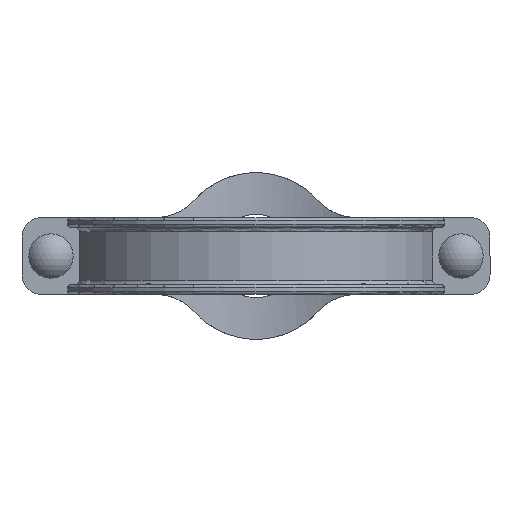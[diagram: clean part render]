
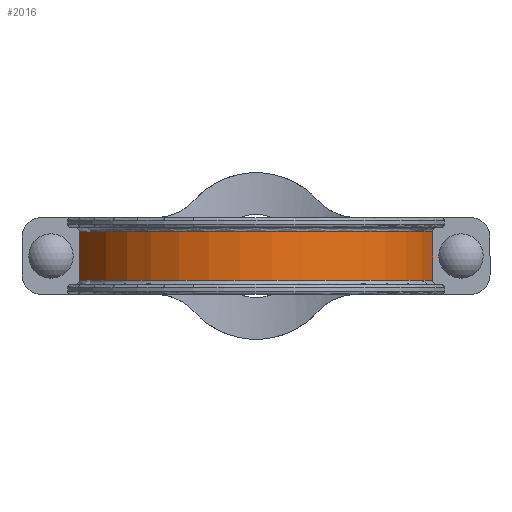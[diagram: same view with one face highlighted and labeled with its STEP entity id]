
A CAD part, front view. The second image highlights one B-rep face of the part: STEP entity #2016.
In plain terms, the highlighted cylindrical face has radius 90.678 mm (diameter 181.356 mm), a partial arc.
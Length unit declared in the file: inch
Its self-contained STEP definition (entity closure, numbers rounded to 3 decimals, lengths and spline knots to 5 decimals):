
#197=FACE_OUTER_BOUND('',#312,.T.);
#312=EDGE_LOOP('',(#1417,#1418,#1419,#1420));
#455=LINE('',#3023,#609);
#457=LINE('',#3044,#611);
#609=VECTOR('',#2392,0.94);
#611=VECTOR('',#2406,0.94);
#745=CIRCLE('',#2132,3.57);
#749=CIRCLE('',#2139,3.57);
#836=VERTEX_POINT('',#2927);
#838=VERTEX_POINT('',#2940);
#850=VERTEX_POINT('',#3012);
#852=VERTEX_POINT('',#3029);
#1039=EDGE_CURVE('',#838,#836,#745,.T.);
#1053=EDGE_CURVE('',#850,#838,#455,.T.);
#1057=EDGE_CURVE('',#852,#850,#749,.T.);
#1059=EDGE_CURVE('',#836,#852,#457,.T.);
#1417=ORIENTED_EDGE('',*,*,#1039,.F.);
#1418=ORIENTED_EDGE('',*,*,#1053,.F.);
#1419=ORIENTED_EDGE('',*,*,#1057,.F.);
#1420=ORIENTED_EDGE('',*,*,#1059,.F.);
#1845=CYLINDRICAL_SURFACE('',#2159,3.57);
#2016=ADVANCED_FACE('',(#197),#1845,.T.);
#2132=AXIS2_PLACEMENT_3D('',#2951,#2378,#2379);
#2139=AXIS2_PLACEMENT_3D('',#3041,#2400,#2401);
#2159=AXIS2_PLACEMENT_3D('',#3121,#2449,#2450);
#2378=DIRECTION('center_axis',(0.,0.,-1.));
#2379=DIRECTION('ref_axis',(0.,-1.,0.));
#2392=DIRECTION('',(0.,0.,-1.));
#2400=DIRECTION('center_axis',(0.,0.,1.));
#2401=DIRECTION('ref_axis',(0.,-1.,0.));
#2406=DIRECTION('',(0.,0.,1.));
#2449=DIRECTION('center_axis',(0.,0.,-1.));
#2450=DIRECTION('ref_axis',(1.,0.,0.));
#2927=CARTESIAN_POINT('',(-3.44674,-0.93,-0.47));
#2940=CARTESIAN_POINT('',(3.44674,-0.93,-0.47));
#2951=CARTESIAN_POINT('Origin',(0.,0.,
-0.47));
#3012=CARTESIAN_POINT('',(3.44674,-0.93,0.47));
#3023=CARTESIAN_POINT('',(3.44674,-0.93,0.));
#3029=CARTESIAN_POINT('',(-3.44674,-0.93,0.47));
#3041=CARTESIAN_POINT('Origin',(0.,0.,
0.47));
#3044=CARTESIAN_POINT('',(-3.44674,-0.93,0.));
#3121=CARTESIAN_POINT('Origin',(0.,0.,
0.));
